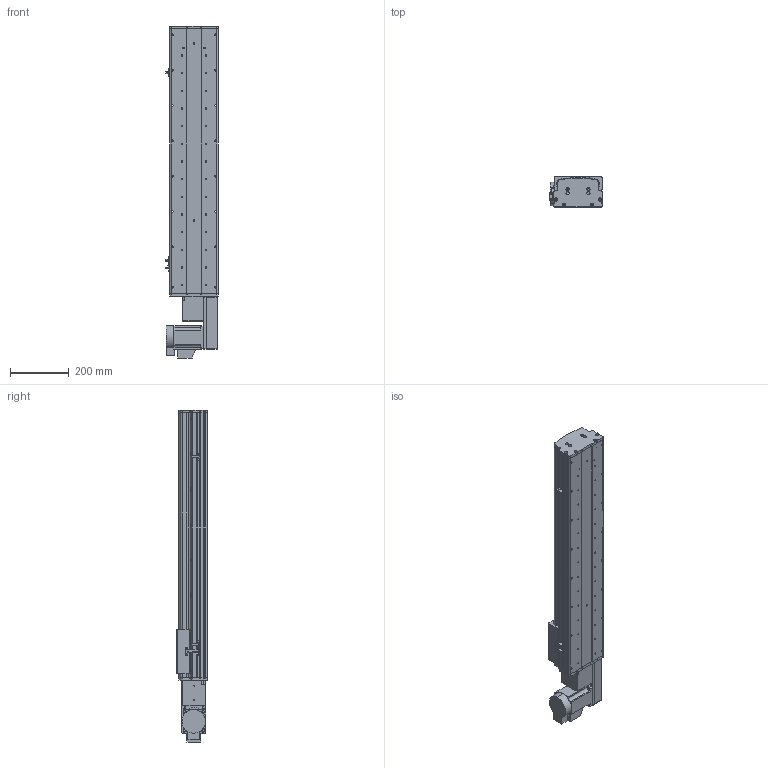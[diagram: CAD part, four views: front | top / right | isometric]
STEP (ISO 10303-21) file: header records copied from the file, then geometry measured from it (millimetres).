
FILE_DESCRIPTION (( 'STEP AP214' ), '1' );
FILE_NAME ('KSD165B-S650-MRB-CM .STEP', '2017-10-16T08:48:39', ( '微软用户' ), ( '微软中国' ), 'SwSTEP 2.0', 'SolidWorks 2014', '' );
FILE_SCHEMA (( 'AUTOMOTIVE_DESIGN' ));
Length unit declared in the file: millimetre
Products named in the file (17): 130宽模组保护罩上下左右折-同步带; KSD165模组-同步带防尘盖1-650行程-最新版; KSD165模组同步带底板-650行程-最新; 拸秶雄ん750W侜督萇儂; 165宽马达安装板同步带右; U倰嫖萇假蚾璃; U倰嫖萇EEㄜSX672; 覜茼え68遵圉猾敕; KSD165模组-同步带-防撞垫2; KSD165模组同步带-防撞垫1; KSD165耀郪-ヶ傷啣1-肮祭湍; KSD165模组-后端板1-同步带; KSD165模组-同步带滑动座-最新版; KSD165B-S650-MRB-CM  ; HTPA26S5M250-A-H8 750W萇儂蚚; HTPA26S5M250-A-H8 400W萇儂蚚 ; 130宽模组马达安装板连板左右折同步带
Assembly tree (20 placements, depth 2):
  KSD165B-S650-MRB-CM  
    KSD165模组-同步带滑动座-最新版
    KSD165模组-后端板1-同步带
    KSD165耀郪-ヶ傷啣1-肮祭湍
    KSD165模组同步带-防撞垫1
    KSD165模组-同步带-防撞垫2
    覜茼え68遵圉猾敕
    U倰嫖萇EEㄜSX672  x3
    U倰嫖萇假蚾璃  x3
    165宽马达安装板同步带右
    拸秶雄ん750W侜督萇儂
    KSD165模组同步带底板-650行程-最新
    KSD165模组-同步带防尘盖1-650行程-最新版
    130宽模组保护罩上下左右折-同步带
    130宽模组马达安装板连板左右折同步带
    HTPA26S5M250-A-H8 400W萇儂蚚 
    HTPA26S5M250-A-H8 750W萇儂蚚
Bounding box: 178.7 x 104 x 1127.5 mm (x, y, z)
Volume: 6337461.6 mm3; surface area: 1468673.1 mm2
Topology: 21 solids, 21 shells, 1921 faces, 5418 edges, 3536 vertices
Faces by surface type: cylinder 1227, plane 582, cone 112
Entity records: 62012 total; most frequent: CARTESIAN_POINT 12712, DIRECTION 10222, ORIENTED_EDGE 9496, EDGE_CURVE 4748, AXIS2_PLACEMENT_3D 4004, VERTEX_POINT 3128, CIRCLE 2280, VECTOR 2214
